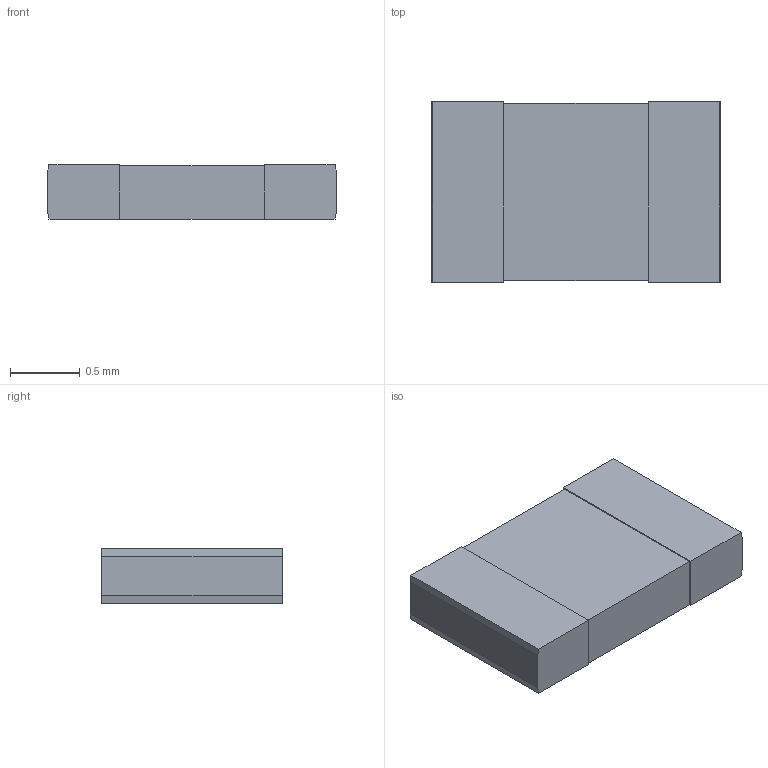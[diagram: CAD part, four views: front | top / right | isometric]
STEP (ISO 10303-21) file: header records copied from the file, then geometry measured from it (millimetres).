
FILE_DESCRIPTION(('FreeCAD Model'),'2;1');
FILE_NAME('Open CASCADE Shape Model','2021-06-29T01:56:23',('Author'),( ''),'Open CASCADE STEP processor 7.5','FreeCAD','Unknown');
FILE_SCHEMA(('AUTOMOTIVE_DESIGN { 1 0 10303 214 1 1 1 1 }'));
Length unit declared in the file: millimetre
Products named in the file (1): intersection
Bounding box: 2.07 x 1.3 x 0.39 mm (x, y, z)
Volume: 1 mm3; surface area: 7.9 mm2
Topology: 1 solids, 1 shells, 22 faces, 56 edges, 36 vertices
Faces by surface type: bspline 16, plane 6
Entity records: 1416 total; most frequent: CARTESIAN_POINT 425, B_SPLINE_CURVE_WITH_KNOTS 144, ORIENTED_EDGE 112, PCURVE 112, DEFINITIONAL_REPRESENTATION 112, EDGE_CURVE 56, SURFACE_CURVE 56, DIRECTION 38
